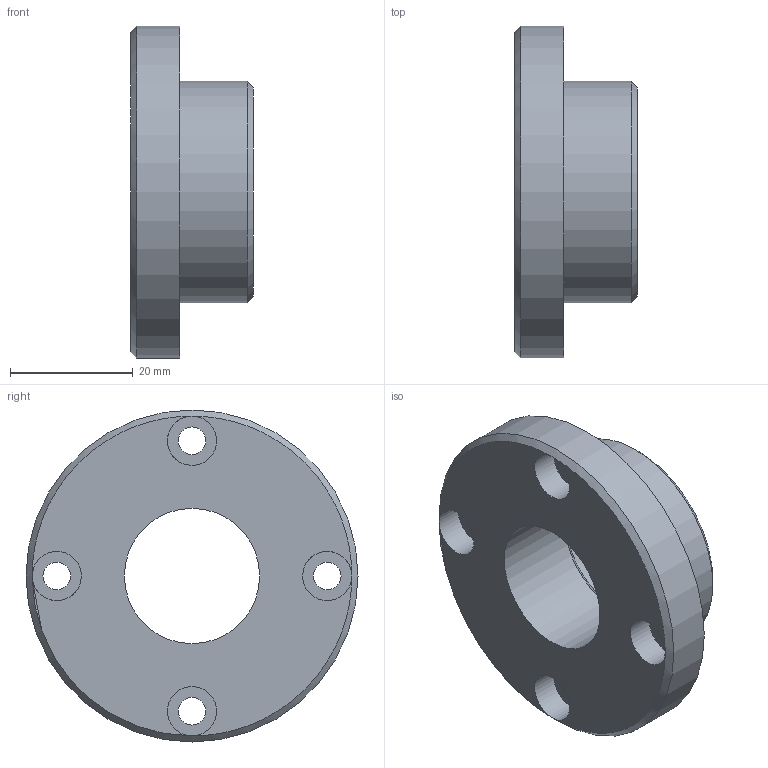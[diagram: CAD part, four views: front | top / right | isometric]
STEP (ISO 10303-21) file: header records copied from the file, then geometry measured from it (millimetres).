
FILE_DESCRIPTION(/* description */ (''),/* implementation_level */ '2;1');
FILE_NAME(/* name */ '',/* time_stamp */ '2025-02-26T16:17:33+09:00',/* author */ ('jhkim'),/* organization */ (''),/* preprocessor_version */ 'ST-DEVELOPER v20',/* originating_system */ 'Autodesk Inventor 2025',/* authorisation */ '');
FILE_SCHEMA (('AUTOMOTIVE_DESIGN { 1 0 10303 214 3 1 1 }'));
Length unit declared in the file: millimetre
Products named in the file (1): 앞커버
Bounding box: 20 x 54 x 54 mm (x, y, z)
Volume: 20011.4 mm3; surface area: 8353.7 mm2
Topology: 1 solids, 1 shells, 23 faces, 49 edges, 30 vertices
Faces by surface type: cylinder 12, plane 8, cone 3
Full cylindrical faces by diameter (mm): 4.5 x4, 8 x4, 22 x1, 30 x1, 36 x1, 54 x1
Entity records: 696 total; most frequent: DIRECTION 131, CARTESIAN_POINT 103, ORIENTED_EDGE 98, AXIS2_PLACEMENT_3D 58, EDGE_CURVE 49, EDGE_LOOP 35, CIRCLE 34, VERTEX_POINT 30
